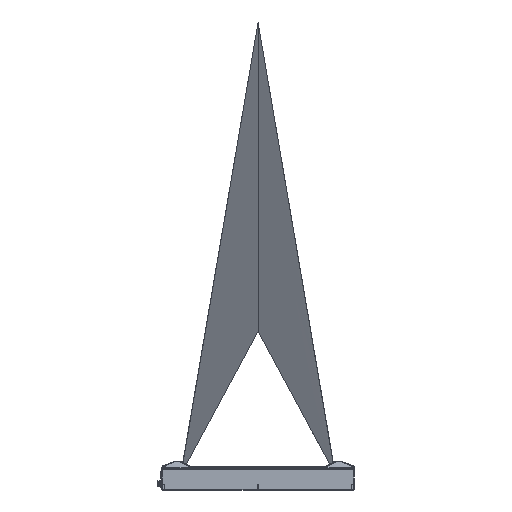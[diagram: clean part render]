
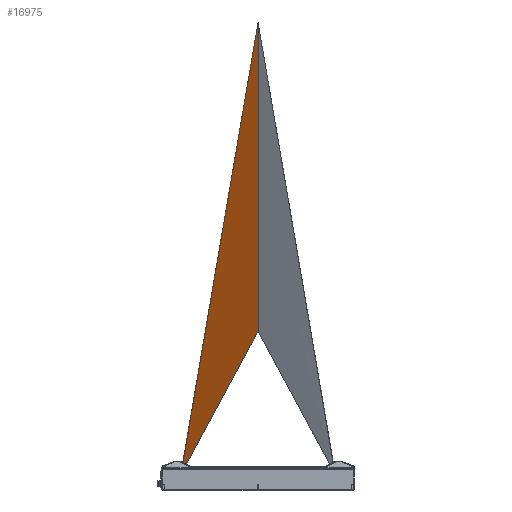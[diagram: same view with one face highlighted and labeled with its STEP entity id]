
A CAD part, front view. The second image highlights one B-rep face of the part: STEP entity #16975.
In plain terms, the highlighted free-form (B-spline) face has degree [3, 1] with [6, 2] control points.
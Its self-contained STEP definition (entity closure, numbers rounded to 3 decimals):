
#1932 = CARTESIAN_POINT ( 'NONE',  ( 192.058, 14.403, 8.261 ) ) ;
#2887 = CARTESIAN_POINT ( 'NONE',  ( 189.416, 13.599, 6.955 ) ) ;
#3493 = CARTESIAN_POINT ( 'NONE',  ( 99.27, 315.49, 566.7 ) ) ;
#3932 = B_SPLINE_SURFACE_WITH_KNOTS ( 'NONE', 3, 1, ( 
 ( #31450, #60981 ),
 ( #46706, #50283 ),
 ( #35715, #16592 ),
 ( #22081, #56091 ),
 ( #40585, #45440 ),
 ( #56410, #25647 ) ),
 .UNSPECIFIED., .F., .F., .F.,
 ( 4, 2, 4 ),
 ( 2, 2 ),
 ( 0., 0.5, 1. ),
 ( 0., 1. ),
 .UNSPECIFIED. ) ;
#7725 = VECTOR ( 'NONE', #43627, 1000. ) ;
#7763 = CARTESIAN_POINT ( 'NONE',  ( 189.97, 13.772, 7.229 ) ) ;
#11594 = ORIENTED_EDGE ( 'NONE', *, *, #47683, .F. ) ;
#11640 = CARTESIAN_POINT ( 'NONE',  ( 187.624, 13.043, 6.07 ) ) ;
#12567 = EDGE_CURVE ( 'NONE', #16419, #60768, #36279, .T. ) ;
#12912 = CARTESIAN_POINT ( 'NONE',  ( 192.046, 14.399, 8.255 ) ) ;
#13043 = CARTESIAN_POINT ( 'NONE',  ( 194.135, 14.937, 9.287 ) ) ;
#13087 = EDGE_LOOP ( 'NONE', ( #41743, #11594, #19416, #15936 ) ) ;
#15936 = ORIENTED_EDGE ( 'NONE', *, *, #27705, .T. ) ;
#16419 = VERTEX_POINT ( 'NONE', #22323 ) ;
#16592 = CARTESIAN_POINT ( 'NONE',  ( 198.042, 0.956, -16.773 ) ) ;
#16802 = CARTESIAN_POINT ( 'NONE',  ( 194.135, 14.937, 9.287 ) ) ;
#16975 = ADVANCED_FACE ( 'NONE', ( #20803 ), #3932, .T. ) ;
#19200 = CARTESIAN_POINT ( 'NONE',  ( 0., 630., 1150. ) ) ;
#19416 = ORIENTED_EDGE ( 'NONE', *, *, #53309, .T. ) ;
#20803 = FACE_OUTER_BOUND ( 'NONE', #13087, .T. ) ;
#21666 = CARTESIAN_POINT ( 'NONE',  ( 192.902, 14.647, 8.678 ) ) ;
#22081 = CARTESIAN_POINT ( 'NONE',  ( 0., 485., 883.333 ) ) ;
#22323 = CARTESIAN_POINT ( 'NONE',  ( 185.917, 12.515, 5.227 ) ) ;
#22631 = CARTESIAN_POINT ( 'NONE',  ( 190.001, 13.781, 7.245 ) ) ;
#23519 = DIRECTION ( 'NONE',  ( 0.43, -0.422, -0.798 ) ) ;
#25647 = CARTESIAN_POINT ( 'NONE',  ( 198.541, 0.979, -16.6 ) ) ;
#26495 = CARTESIAN_POINT ( 'NONE',  ( 186.6, 12.726, 5.564 ) ) ;
#27460 = CARTESIAN_POINT ( 'NONE',  ( 190.943, 14.072, 7.71 ) ) ;
#27705 = EDGE_CURVE ( 'NONE', #58067, #60768, #63086, .T. ) ;
#28808 = VECTOR ( 'NONE', #44750, 1000. ) ;
#29983 = CARTESIAN_POINT ( 'NONE',  ( 0., 195., 350. ) ) ;
#31356 = CARTESIAN_POINT ( 'NONE',  ( 189.991, 13.779, 7.24 ) ) ;
#31450 = CARTESIAN_POINT ( 'NONE',  ( 0., 195., 350. ) ) ;
#31678 = CARTESIAN_POINT ( 'NONE',  ( 192.032, 14.395, 8.248 ) ) ;
#32322 = CARTESIAN_POINT ( 'NONE',  ( 189.864, 13.739, 7.177 ) ) ;
#34707 = CARTESIAN_POINT ( 'NONE',  ( 0., 630., 1150. ) ) ;
#35715 = CARTESIAN_POINT ( 'NONE',  ( 0., 340., 616.667 ) ) ;
#36254 = CARTESIAN_POINT ( 'NONE',  ( 189.714, 13.692, 7.103 ) ) ;
#36279 = B_SPLINE_CURVE_WITH_KNOTS ( 'NONE', 3,
 ( #36884, #26495, #11640, #51788, #2887, #36254, #32322, #52104, #7763, #31356, #22631, #46285, #27460, #47255, #42404, #37527, #57291, #31678, #12912, #41438, #1932, #21666, #61203, #16802 ),
 .UNSPECIFIED., .F., .F.,
 ( 4, 1, 1, 1, 1, 1, 1, 2, 2, 1, 1, 1, 1, 1, 1, 2, 2, 4 ),
 ( 0., 0.25, 0.375, 0.438, 0.469, 0.484, 0.492, 0.496, 0.5, 0.625, 0.687, 0.719, 0.734, 0.742, 0.746, 0.748, 0.75, 1. ),
 .UNSPECIFIED. ) ;
#36884 = CARTESIAN_POINT ( 'NONE',  ( 185.917, 12.515, 5.227 ) ) ;
#37527 = CARTESIAN_POINT ( 'NONE',  ( 191.932, 14.366, 8.199 ) ) ;
#38426 = CARTESIAN_POINT ( 'NONE',  ( 98.911, 97.915, 166.576 ) ) ;
#40585 = CARTESIAN_POINT ( 'NONE',  ( 0., 557.5, 1016.667 ) ) ;
#41438 = CARTESIAN_POINT ( 'NONE',  ( 192.055, 14.402, 8.26 ) ) ;
#41743 = ORIENTED_EDGE ( 'NONE', *, *, #12567, .F. ) ;
#42404 = CARTESIAN_POINT ( 'NONE',  ( 191.798, 14.327, 8.133 ) ) ;
#43627 = DIRECTION ( 'NONE',  ( 0.148, -0.469, -0.87 ) ) ;
#44106 = LINE ( 'NONE', #34707, #28808 ) ;
#44750 = DIRECTION ( 'NONE',  ( 0., 0.478, 0.879 ) ) ;
#45440 = CARTESIAN_POINT ( 'NONE',  ( 198.421, 1.005, -16.641 ) ) ;
#46285 = CARTESIAN_POINT ( 'NONE',  ( 190.398, 13.905, 7.441 ) ) ;
#46706 = CARTESIAN_POINT ( 'NONE',  ( 0., 267.5, 483.333 ) ) ;
#47255 = CARTESIAN_POINT ( 'NONE',  ( 191.523, 14.246, 7.997 ) ) ;
#47683 = EDGE_CURVE ( 'NONE', #62046, #16419, #48455, .T. ) ;
#48455 = LINE ( 'NONE', #38426, #51392 ) ;
#50283 = CARTESIAN_POINT ( 'NONE',  ( 197.923, 0.902, -16.814 ) ) ;
#51392 = VECTOR ( 'NONE', #23519, 1000. ) ;
#51788 = CARTESIAN_POINT ( 'NONE',  ( 188.819, 13.414, 6.66 ) ) ;
#52104 = CARTESIAN_POINT ( 'NONE',  ( 189.938, 13.762, 7.214 ) ) ;
#53309 = EDGE_CURVE ( 'NONE', #62046, #58067, #44106, .T. ) ;
#56091 = CARTESIAN_POINT ( 'NONE',  ( 198.292, 1.007, -16.686 ) ) ;
#56410 = CARTESIAN_POINT ( 'NONE',  ( 0., 630., 1150. ) ) ;
#57291 = CARTESIAN_POINT ( 'NONE',  ( 191.999, 14.385, 8.232 ) ) ;
#58067 = VERTEX_POINT ( 'NONE', #19200 ) ;
#60768 = VERTEX_POINT ( 'NONE', #13043 ) ;
#60981 = CARTESIAN_POINT ( 'NONE',  ( 197.822, 0.83, -16.849 ) ) ;
#61203 = CARTESIAN_POINT ( 'NONE',  ( 193.592, 14.825, 9.019 ) ) ;
#62046 = VERTEX_POINT ( 'NONE', #29983 ) ;
#63086 = LINE ( 'NONE', #3493, #7725 ) ;
